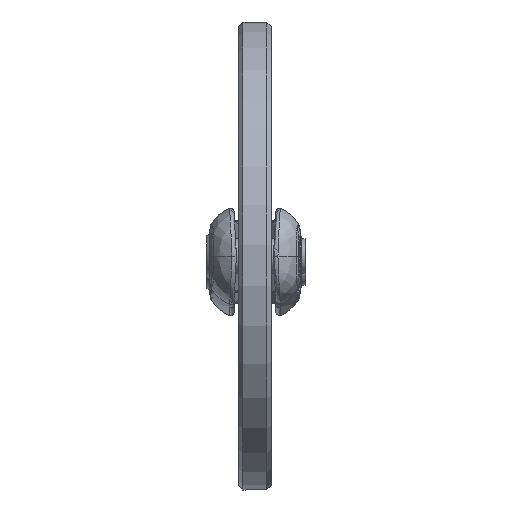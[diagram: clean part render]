
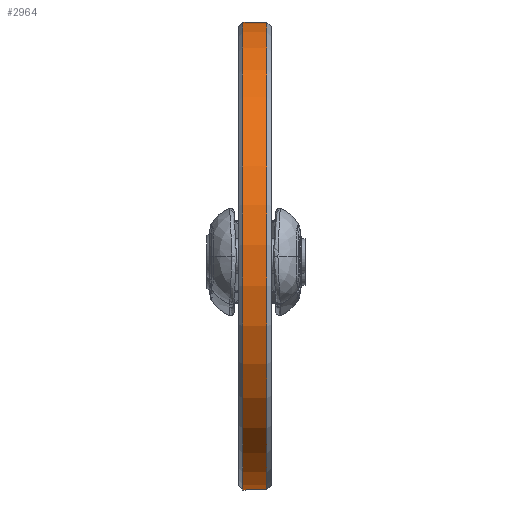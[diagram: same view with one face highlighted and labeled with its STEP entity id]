
A CAD part, top view. The second image highlights one B-rep face of the part: STEP entity #2964.
In plain terms, the highlighted cylindrical face has radius 107.5 mm (diameter 215 mm), a full revolution.
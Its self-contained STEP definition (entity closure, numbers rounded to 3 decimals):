
#720=FACE_BOUND($,#1352,.T.);
#898=CIRCLE($,#3283,107.5);
#899=CIRCLE($,#3285,107.5);
#1078=FACE_OUTER_BOUND($,#1351,.T.);
#1351=EDGE_LOOP($,(#2719));
#1352=EDGE_LOOP($,(#2720));
#1624=VERTEX_POINT($,#13547);
#1625=VERTEX_POINT($,#13550);
#1994=EDGE_CURVE($,#1624,#1624,#898,.T.);
#1995=EDGE_CURVE($,#1625,#1625,#899,.T.);
#2719=ORIENTED_EDGE($,*,*,#1995,.F.);
#2720=ORIENTED_EDGE($,*,*,#1994,.F.);
#2771=CYLINDRICAL_SURFACE($,#3284,107.5);
#2964=ADVANCED_FACE($,(#1078,#720),#2771,.T.);
#3283=AXIS2_PLACEMENT_3D($,#13548,#3972,#3973);
#3284=AXIS2_PLACEMENT_3D($,#13549,#3974,#3975);
#3285=AXIS2_PLACEMENT_3D($,#13551,#3976,#3977);
#3972=DIRECTION('center_axis',(0.,0.,-1.));
#3973=DIRECTION('ref_axis',(-1.,0.,0.));
#3974=DIRECTION('center_axis',(0.,0.,1.));
#3975=DIRECTION('ref_axis',(-1.,0.,0.));
#3976=DIRECTION('center_axis',(0.,0.,1.));
#3977=DIRECTION('ref_axis',(-1.,0.,0.));
#13547=CARTESIAN_POINT('',(107.5,0.,-5.5));
#13548=CARTESIAN_POINT('Origin',(0.,0.,-5.5));
#13549=CARTESIAN_POINT('Origin',(0.,0.,0.));
#13550=CARTESIAN_POINT('',(107.5,0.,5.5));
#13551=CARTESIAN_POINT('Origin',(0.,0.,5.5));
